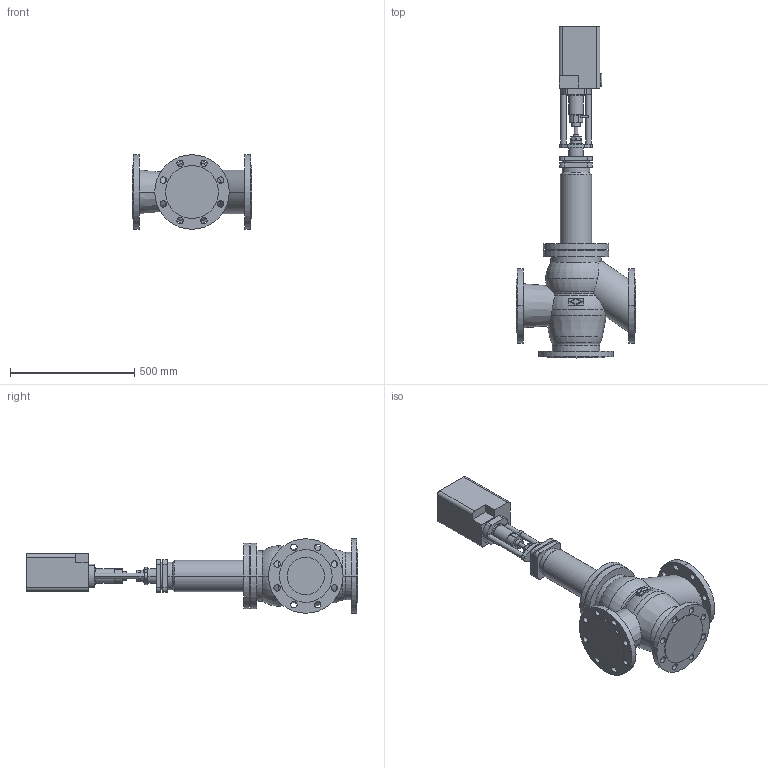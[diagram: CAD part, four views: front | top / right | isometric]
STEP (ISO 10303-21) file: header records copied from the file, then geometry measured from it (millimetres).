
FILE_DESCRIPTION(('OneSpaceDesigner STEP Export'),'2;1');
FILE_NAME('c000002451.stp','2006-09-21T11:48:48',(''),(''),'OneSpace Designer STEP processor for AP214 (Solid Model)','OneSpace Designer 13.20A 18-Aug-2005 (C) CoCreate Software GmbH','');
FILE_SCHEMA(('AUTOMOTIVE_DESIGN { 1 0 10303 214 1 1 1 1 }'));
Length unit declared in the file: millimetre
Products named in the file (2): 1; 2
Bounding box: 480 x 1336.2 x 300 mm (x, y, z)
Volume: 40037156.6 mm3; surface area: 1428048.6 mm2
Topology: 2 solids, 2 shells, 257 faces, 649 edges, 427 vertices
Faces by surface type: cylinder 128, plane 105, torus 18, cone 6
Entity records: 7269 total; most frequent: CARTESIAN_POINT 1427, ORIENTED_EDGE 1298, DIRECTION 1081, EDGE_CURVE 649, VERTEX_POINT 427, AXIS2_PLACEMENT_3D 389, EDGE_LOOP 336, VECTOR 303
